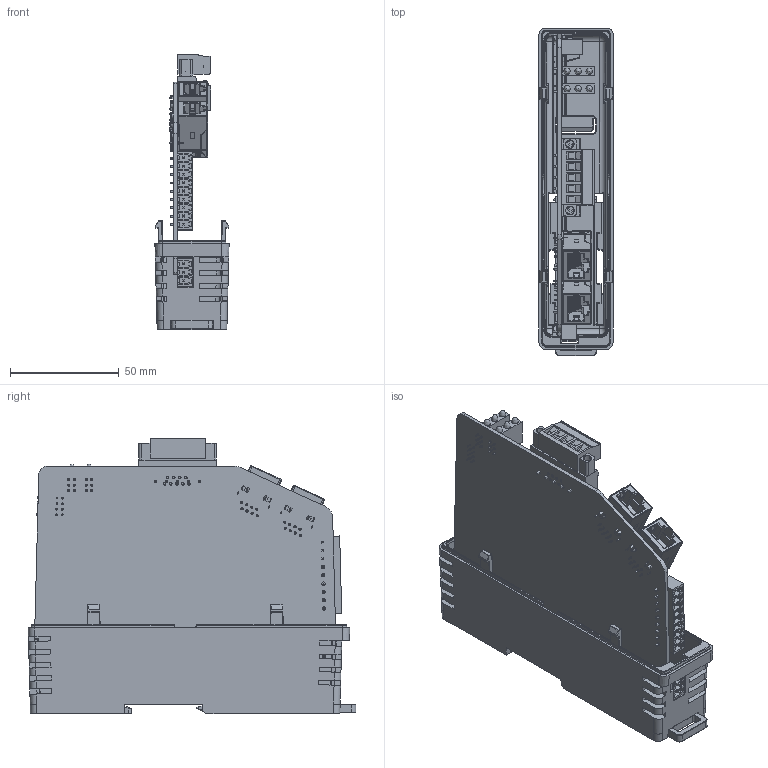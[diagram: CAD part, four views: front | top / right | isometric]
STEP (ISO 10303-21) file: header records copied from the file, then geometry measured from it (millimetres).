
FILE_DESCRIPTION (( 'STEP AP214' ), '1' );
FILE_NAME ('PCD_Assem_A_03.STEP', '2024-07-15T22:19:49', ( '' ), ( '' ), 'SwSTEP 2.0', 'SolidWorks 2020', '' );
FILE_SCHEMA (( 'AUTOMOTIVE_DESIGN' ));
Length unit declared in the file: millimetre
Products named in the file (14): mstb_2.5-5-stf-5.08_abgy; PCD_BASE_A_01; Phoenix Contact Plug 5 pin Can; Socket9; mstb_2.5-5-gf-5.08_abgy_au; TriLED; PCD_LID_A_02_Rev4A_CANOpen Router; PCD_Dual_R02_Profibus_DP; Clip_PCD; DipSwitch; Phoenix Contact Socket 5 pin Can; Socket3a; PCD_Assem_A_03; JD1-0003NL1
Assembly tree (15 placements, depth 3):
  PCD_Assem_A_03
    PCD_BASE_A_01
    PCD_LID_A_02_Rev4A_CANOpen Router
    PCD_Dual_R02_Profibus_DP
    TriLED  x2
    DipSwitch
    JD1-0003NL1  x2
    Socket3a
    Socket9
    Clip_PCD
    Phoenix Contact Socket 5 pin Can
      mstb_2.5-5-gf-5.08_abgy_au
    Phoenix Contact Plug 5 pin Can
      mstb_2.5-5-stf-5.08_abgy
Bounding box: 34.03 x 150.33 x 126.2 mm (x, y, z)
Volume: 84228.5 mm3; surface area: 93409.8 mm2
Topology: 10 solids, 16 shells, 4529 faces, 11993 edges, 7567 vertices
Faces by surface type: plane 3026, cylinder 956, bspline 249, cone 123, torus 100, sphere 75
Full cylindrical faces by diameter (mm): 0.434 x1, 0.609 x1, 0.8 x8, 1 x28, 1.2 x9, 1.4 x7, 1.5 x9, 1.75 x2, 1.8 x2, 2.4 x2, 2.5 x4, 2.8 x8, 3.783 x5, 3.8 x2, 3.9 x2, 4 x5
Entity records: 197655 total; most frequent: CARTESIAN_POINT 53196, ORIENTED_EDGE 26954, DIRECTION 23043, EDGE_CURVE 13497, LINE 9561, VECTOR 9561, VERTEX_POINT 8600, AXIS2_PLACEMENT_3D 6741
